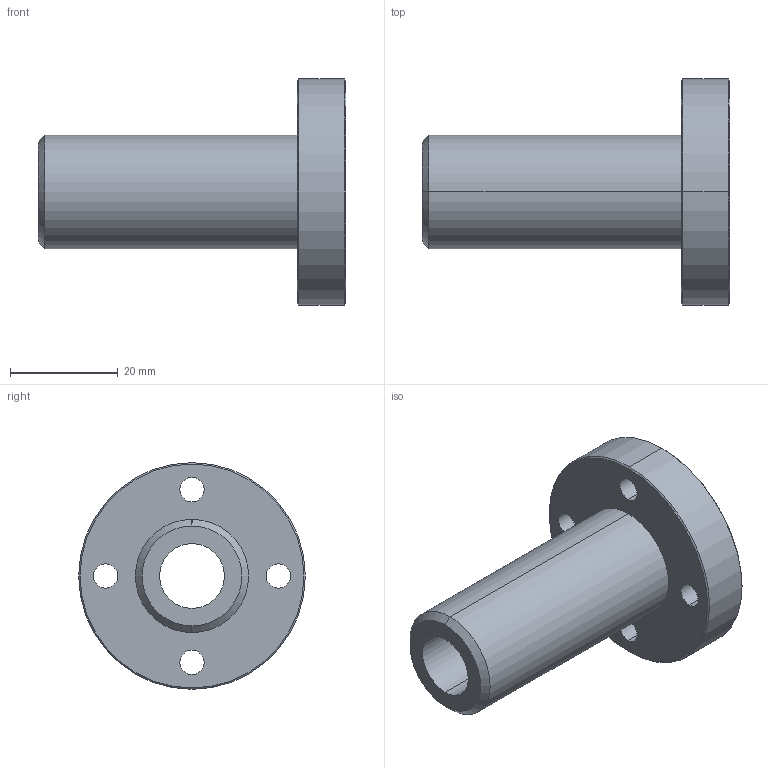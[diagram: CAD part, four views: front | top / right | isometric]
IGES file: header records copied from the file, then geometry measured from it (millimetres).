
Start section: 3D InterOp IGES (Version 21 0 1), Spatial Corp. Copyright (c) 1999-2007.
Global section: file name: DFPJR12.igs; native system: Spatial Corp.; preprocessor: 3D InterOp GENERIC/IGES 3.0; author: Noname; organization: Noname; date: 20220324.143947; units: millimetre
Bounding box: 57 x 42 x 42 mm (x, y, z)
Surface area: 9494.3 mm2 (no closed solid volume)
Topology: 0 solids, 0 shells, 35 faces, 156 edges, 156 vertices
Faces by surface type: revolution 28, extrusion 7
